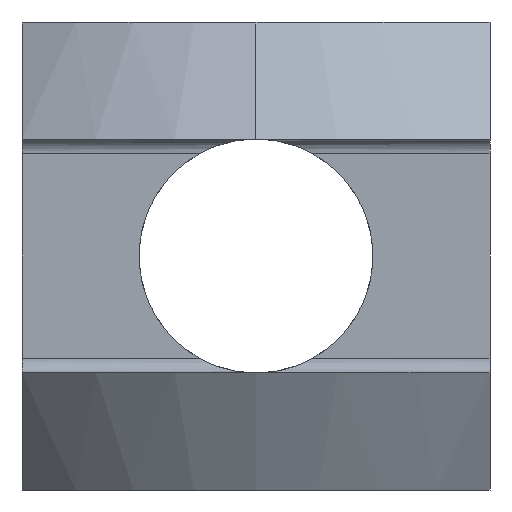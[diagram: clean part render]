
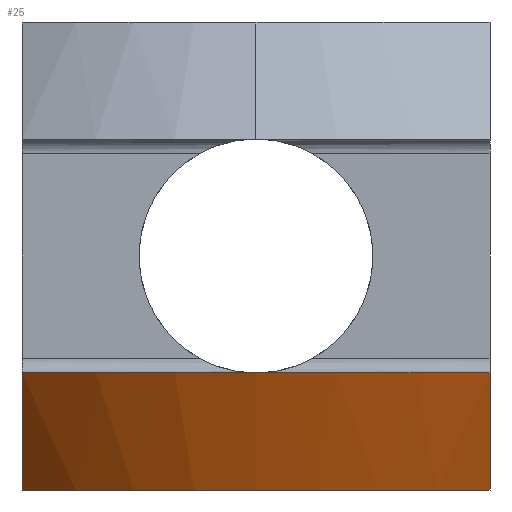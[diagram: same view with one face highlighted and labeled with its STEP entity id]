
A CAD part, left-side view. The second image highlights one B-rep face of the part: STEP entity #25.
In plain terms, the highlighted conical face has half-angle 30 degrees and reference radius 32 mm.
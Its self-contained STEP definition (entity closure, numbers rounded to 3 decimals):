
#16 = ORIENTED_EDGE ( 'NONE', *, *, #148, .F. ) ;
#17 = ORIENTED_EDGE ( 'NONE', *, *, #1055, .T. ) ;
#22 = ORIENTED_EDGE ( 'NONE', *, *, #960, .F. ) ;
#23 = ORIENTED_EDGE ( 'NONE', *, *, #1093, .F. ) ;
#24 = EDGE_LOOP ( 'NONE', ( #23, #22, #17, #16 ) ) ;
#25 = ADVANCED_FACE ( 'NONE', ( #1161 ), #1164, .T. ) ;
#143 = VERTEX_POINT ( 'NONE', #249 ) ;
#148 = EDGE_CURVE ( 'NONE', #173, #143, #302, .T. ) ;
#173 = VERTEX_POINT ( 'NONE', #312 ) ;
#174 = VERTEX_POINT ( 'NONE', #308 ) ;
#249 = CARTESIAN_POINT ( 'NONE',  ( -73.22, -16., -16. ) ) ;
#297 = CARTESIAN_POINT ( 'NONE',  ( -73.22, -16., -16. ) ) ;
#298 = CARTESIAN_POINT ( 'NONE',  ( -75.096, -16., -13.363 ) ) ;
#299 = CARTESIAN_POINT ( 'NONE',  ( -76.919, -16., -10.691 ) ) ;
#300 = CARTESIAN_POINT ( 'NONE',  ( -78.713, -16., -8. ) ) ;
#302 = B_SPLINE_CURVE_WITH_KNOTS ( 'NONE', 3,
 ( #300, #299, #298, #297 ),
 .UNSPECIFIED., .F., .F.,
 ( 4, 4 ),
 ( 0.023, 0.033 ),
 .UNSPECIFIED. ) ;
#308 = CARTESIAN_POINT ( 'NONE',  ( -78.713, 16., -8. ) ) ;
#312 = CARTESIAN_POINT ( 'NONE',  ( -78.713, -16., -8. ) ) ;
#501 = CARTESIAN_POINT ( 'NONE',  ( -78.713, 16., -8. ) ) ;
#502 = CARTESIAN_POINT ( 'NONE',  ( -76.919, 16., -10.691 ) ) ;
#503 = CARTESIAN_POINT ( 'NONE',  ( -75.096, 16., -13.363 ) ) ;
#504 = CARTESIAN_POINT ( 'NONE',  ( -73.22, 16., -16. ) ) ;
#506 = B_SPLINE_CURVE_WITH_KNOTS ( 'NONE', 3,
 ( #504, #503, #502, #501 ),
 .UNSPECIFIED., .F., .F.,
 ( 4, 4 ),
 ( 0.057, 0.067 ),
 .UNSPECIFIED. ) ;
#714 = DIRECTION ( 'NONE',  ( 0., 0., 1. ) ) ;
#715 = CARTESIAN_POINT ( 'NONE',  ( -51., 0., -16. ) ) ;
#716 = AXIS2_PLACEMENT_3D ( 'NONE', #715, #714, #1101 ) ;
#717 = CIRCLE ( 'NONE', #716, 27.381 ) ;
#765 = CARTESIAN_POINT ( 'NONE',  ( -73.22, 16., -16. ) ) ;
#809 = DIRECTION ( 'NONE',  ( 1., 0., 0. ) ) ;
#810 = DIRECTION ( 'NONE',  ( 0., 0., 1. ) ) ;
#811 = CARTESIAN_POINT ( 'NONE',  ( -51., 0., -8. ) ) ;
#812 = AXIS2_PLACEMENT_3D ( 'NONE', #811, #810, #809 ) ;
#813 = CIRCLE ( 'NONE', #812, 32. ) ;
#960 = EDGE_CURVE ( 'NONE', #1057, #174, #506, .T. ) ;
#1055 = EDGE_CURVE ( 'NONE', #1057, #143, #717, .T. ) ;
#1057 = VERTEX_POINT ( 'NONE', #765 ) ;
#1093 = EDGE_CURVE ( 'NONE', #174, #173, #813, .T. ) ;
#1101 = DIRECTION ( 'NONE',  ( 1., 0., 0. ) ) ;
#1161 = FACE_OUTER_BOUND ( 'NONE', #24, .T. ) ;
#1164 = CONICAL_SURFACE ( 'NONE', #1168, 32., 0.524 ) ;
#1165 = DIRECTION ( 'NONE',  ( 1., 0., 0. ) ) ;
#1166 = DIRECTION ( 'NONE',  ( 0., 0., 1. ) ) ;
#1167 = CARTESIAN_POINT ( 'NONE',  ( -51., 0., -8. ) ) ;
#1168 = AXIS2_PLACEMENT_3D ( 'NONE', #1167, #1166, #1165 ) ;
